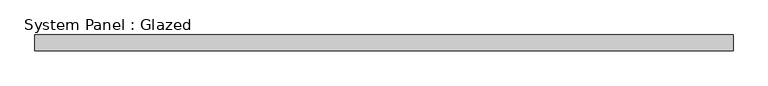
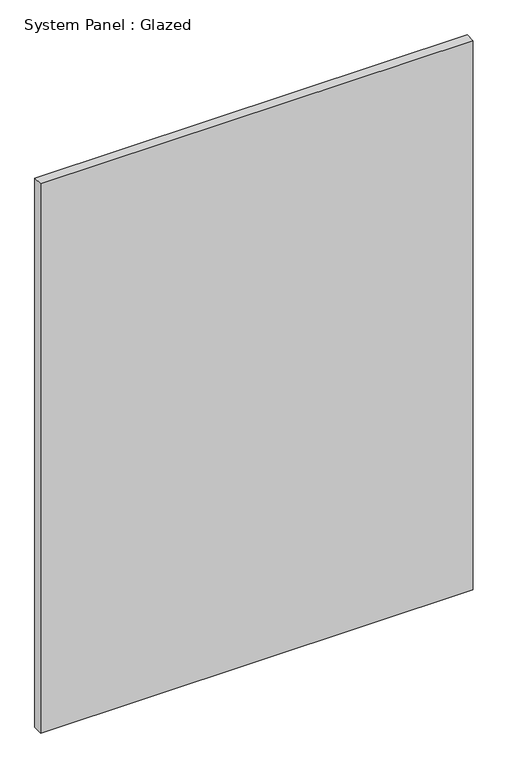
"""IFC4 building model written with IfcOpenShell, lengths in millimetres: plate geometry, System Panel : Glazed."""

from ifc_helpers import new_model, si_unit, origin, origin_with_axes, place, context, project, spatial, polyline, outline, extrude, source, transform, mapped, element, save


def system_panel_glazed_71216330(model_context):
    return source(origin(), model_context, "Body", "SweptSolid", [
        extrude(outline(polyline([(549.5, 24.5), (-549.5, 24.5), (-549.5, 49.5), (549.5, 49.5), (549.5, 24.5)])), origin_with_axes(), (0.0, 0.0, 1.0), 1474.0),
    ])


if __name__ == "__main__":
    model = new_model("IFC4")
    model_context = context("Model", 3, world=origin())
    ifc_project = project(units=[si_unit("LENGTHUNIT", "METRE", prefix="MILLI")], contexts=[model_context])
    site = spatial("IfcSite", under=ifc_project)
    building = spatial("IfcBuilding", under=site)
    placement = place(None, origin())
    system_panel_glazed_shape = system_panel_glazed_71216330(model_context)
    element("IfcPlate", 1, ObjectType="System Panel : Glazed", at=placement, inside=building, context=model_context, shape_type="MappedRepresentation", body=[
        mapped(system_panel_glazed_shape, transform((0.0, 0.0, 0.0), x_axis=(1.0, 0.0, 0.0), y_axis=(0.0, 1.0, 0.0), z_axis=(0.0, 0.0, 1.0))),
    ])
    save(model, "model.ifc")
